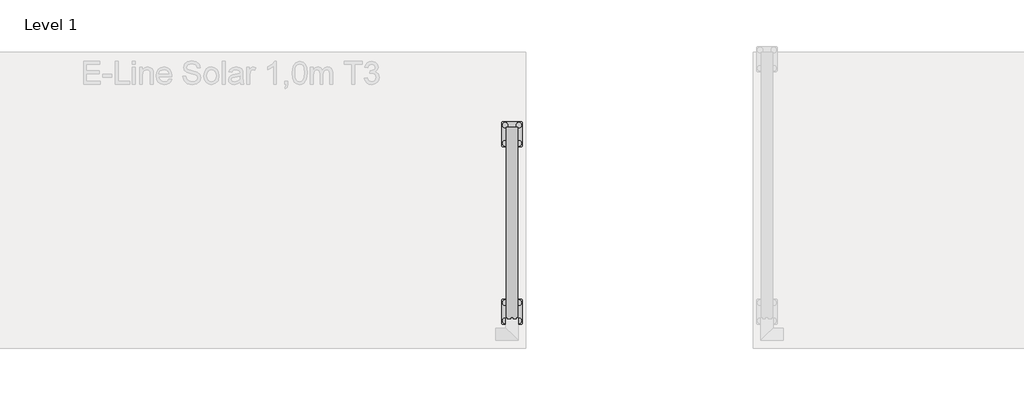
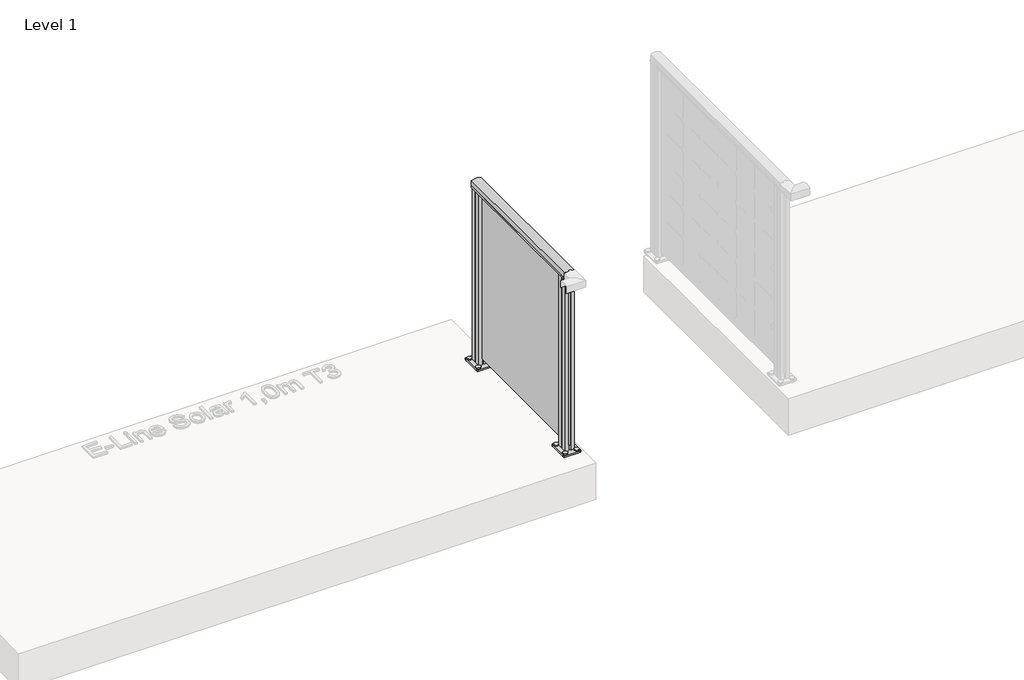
# One storey, part 23 of 66: 1 railing.
"""IFC4 building model written with IfcOpenShell, lengths in millimetres."""

from ifc_helpers import new_model, si_unit, point, frame, frame_2d, origin, origin_with_axes, place, context, project, spatial, polyline, circle_curve, trimmed, segment, composite_curve, outline, extrude, element, save

model = new_model("IFC4")

# Units and contexts
model_context = context("Model", 3, world=origin())
ifc_project = project(units=[si_unit("LENGTHUNIT", "METRE", prefix="MILLI")], contexts=[model_context])

# Site, building, storey
site = spatial("IfcSite", under=ifc_project)
building = spatial("IfcBuilding", under=site)
storey = spatial("IfcBuildingStorey", under=building, Name="Level 1", Elevation=0.0)

# Railing
placement = place(None, origin())
element("IfcRailing", 1, ObjectType="E-Line Solar 1,0m T3 4 columns of solar elements", at=placement, inside=storey, context=model_context, shape_type="SweptSolid", body=[
    extrude(outline(composite_curve([segment(trimmed(circle_curve(frame_2d((942.6785502, 18235.8109342)), 57.3235687), [point((994.1390059, 18261.0658945))], [point((994.1342258, 18210.5462362))], False, "CARTESIAN"), True, "CONTINUOUS"), segment(polyline([(994.1342258, 18210.5462362), (967.0235023, 18210.5462362), (966.4415706, 18211.128168), (965.8194895, 18210.5060869), (957.2498847, 18210.5060869), (957.2498847, 18212.3110398), (980.4998829, 18212.3110398), (980.4998829, 18259.306086), (957.2498847, 18259.306086), (957.2498847, 18261.0658945), (965.9694895, 18261.0658945), (966.5842725, 18260.4511115), (967.1990555, 18261.0658945), (994.1390059, 18261.0658945)]), True, "CONTINUOUS")], self_intersect=False)), frame((0.0, -2851.1184021, 0.0), z_axis=(0.0, 1.0, 0.0), x_axis=(0.0, 0.0, 1.0)), (0.0, 0.0, 1.0), 840.0),
    extrude(outline(polyline([(18232.1463105, -2011.1184021), (18240.9063105, -2011.1184021), (18240.9063105, -2851.1184021), (18232.1463105, -2851.1184021), (18232.1463105, -2011.1184021)])), frame((0.0, 0.0, 40.0), z_axis=(0.0, 0.0, 1.0), x_axis=(1.0, 0.0, 0.0)), (0.0, 0.0, 1.0), 940.0),
    extrude(outline(polyline([(0.0, 0.0), (-16.036927, 16.036927), (-16.036927, 139.963073), (0.0, 156.0), (123.9261459, 156.0), (139.963073, 139.963073), (139.963073, 16.036927), (123.9261459, 0.0), (0.0, 0.0)])), frame((18240.0263105, -2267.6184021, 888.4156895), z_axis=(1.0, -5.7872079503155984e-12, 0.0), x_axis=(0.0, 0.0, -1.0)), (0.0, 0.0, 1.0), 1.0),
    extrude(outline(polyline([(0.0, 0.0), (-16.036927, 16.036927), (-16.036927, 139.963073), (0.0, 156.0), (123.9261459, 156.0), (139.963073, 139.963073), (139.963073, 16.036927), (123.9261459, 0.0), (0.0, 0.0)])), frame((18240.0263105, -2267.6184021, 727.4156895), z_axis=(1.0, -5.7872079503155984e-12, 0.0), x_axis=(0.0, 0.0, -1.0)), (0.0, 0.0, 1.0), 1.0),
    extrude(outline(polyline([(0.0, 0.0), (-16.036927, 16.036927), (-16.036927, 139.963073), (0.0, 156.0), (123.9261459, 156.0), (139.963073, 139.963073), (139.963073, 16.036927), (123.9261459, 0.0), (0.0, 0.0)])), frame((18240.0263105, -2267.6184021, 566.4156895), z_axis=(1.0, -5.7872079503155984e-12, 0.0), x_axis=(0.0, 0.0, -1.0)), (0.0, 0.0, 1.0), 1.0),
    extrude(outline(polyline([(0.0, 0.0), (-16.036927, 16.036927), (-16.036927, 139.963073), (0.0, 156.0), (123.9261459, 156.0), (139.963073, 139.963073), (139.963073, 16.036927), (123.9261459, 0.0), (0.0, 0.0)])), frame((18240.0263105, -2267.6184021, 405.4156895), z_axis=(1.0, -5.7872079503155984e-12, 0.0), x_axis=(0.0, 0.0, -1.0)), (0.0, 0.0, 1.0), 1.0),
    extrude(outline(polyline([(0.0, 0.0), (-16.036927, 16.036927), (-16.036927, 139.963073), (0.0, 156.0), (123.9261459, 156.0), (139.963073, 139.963073), (139.963073, 16.036927), (123.9261459, 0.0), (0.0, 0.0)])), frame((18240.0263105, -2267.6184021, 244.4156895), z_axis=(1.0, -5.7872079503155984e-12, 0.0), x_axis=(0.0, 0.0, -1.0)), (0.0, 0.0, 1.0), 1.0),
    extrude(outline(polyline([(0.0, 0.0), (-16.036927, 16.036927), (-16.036927, 139.963073), (0.0, 156.0), (123.9261459, 156.0), (139.963073, 139.963073), (139.963073, 16.036927), (123.9261459, 0.0), (0.0, 0.0)])), frame((18240.0263105, -2428.6184021, 888.4156895), z_axis=(1.0, -5.7872079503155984e-12, 0.0), x_axis=(0.0, 0.0, -1.0)), (0.0, 0.0, 1.0), 1.0),
    extrude(outline(polyline([(0.0, 0.0), (-16.036927, 16.036927), (-16.036927, 139.963073), (0.0, 156.0), (123.9261459, 156.0), (139.963073, 139.963073), (139.963073, 16.036927), (123.9261459, 0.0), (0.0, 0.0)])), frame((18240.0263105, -2428.6184021, 727.4156895), z_axis=(1.0, -5.7872079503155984e-12, 0.0), x_axis=(0.0, 0.0, -1.0)), (0.0, 0.0, 1.0), 1.0),
    extrude(outline(polyline([(0.0, 0.0), (-16.036927, 16.036927), (-16.036927, 139.963073), (0.0, 156.0), (123.9261459, 156.0), (139.963073, 139.963073), (139.963073, 16.036927), (123.9261459, 0.0), (0.0, 0.0)])), frame((18240.0263105, -2428.6184021, 566.4156895), z_axis=(1.0, -5.7872079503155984e-12, 0.0), x_axis=(0.0, 0.0, -1.0)), (0.0, 0.0, 1.0), 1.0),
    extrude(outline(polyline([(0.0, 0.0), (-16.036927, 16.036927), (-16.036927, 139.963073), (0.0, 156.0), (123.9261459, 156.0), (139.963073, 139.963073), (139.963073, 16.036927), (123.9261459, 0.0), (0.0, 0.0)])), frame((18240.0263105, -2428.6184021, 405.4156895), z_axis=(1.0, -5.7872079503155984e-12, 0.0), x_axis=(0.0, 0.0, -1.0)), (0.0, 0.0, 1.0), 1.0),
    extrude(outline(polyline([(0.0, 0.0), (-16.036927, 16.036927), (-16.036927, 139.963073), (0.0, 156.0), (123.9261459, 156.0), (139.963073, 139.963073), (139.963073, 16.036927), (123.9261459, 0.0), (0.0, 0.0)])), frame((18240.0263105, -2428.6184021, 244.4156895), z_axis=(1.0, -5.7872079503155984e-12, 0.0), x_axis=(0.0, 0.0, -1.0)), (0.0, 0.0, 1.0), 1.0),
    extrude(outline(polyline([(0.0, 0.0), (-16.036927, 16.036927), (-16.036927, 139.963073), (0.0, 156.0), (123.9261459, 156.0), (139.963073, 139.963073), (139.963073, 16.036927), (123.9261459, 0.0), (0.0, 0.0)])), frame((18240.0263105, -2750.6184021, 888.4156895), z_axis=(1.0, -5.7872079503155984e-12, 0.0), x_axis=(0.0, 0.0, -1.0)), (0.0, 0.0, 1.0), 1.0),
    extrude(outline(polyline([(0.0, 0.0), (-16.036927, 16.036927), (-16.036927, 139.963073), (0.0, 156.0), (123.9261459, 156.0), (139.963073, 139.963073), (139.963073, 16.036927), (123.9261459, 0.0), (0.0, 0.0)])), frame((18240.0263105, -2750.6184021, 727.4156895), z_axis=(1.0, -5.7872079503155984e-12, 0.0), x_axis=(0.0, 0.0, -1.0)), (0.0, 0.0, 1.0), 1.0),
    extrude(outline(polyline([(0.0, 0.0), (-16.036927, 16.036927), (-16.036927, 139.963073), (0.0, 156.0), (123.9261459, 156.0), (139.963073, 139.963073), (139.963073, 16.036927), (123.9261459, 0.0), (0.0, 0.0)])), frame((18240.0263105, -2750.6184021, 566.4156895), z_axis=(1.0, -5.7872079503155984e-12, 0.0), x_axis=(0.0, 0.0, -1.0)), (0.0, 0.0, 1.0), 1.0),
    extrude(outline(polyline([(0.0, 0.0), (-16.036927, 16.036927), (-16.036927, 139.963073), (0.0, 156.0), (123.9261459, 156.0), (139.963073, 139.963073), (139.963073, 16.036927), (123.9261459, 0.0), (0.0, 0.0)])), frame((18240.0263105, -2750.6184021, 405.4156895), z_axis=(1.0, -5.7872079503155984e-12, 0.0), x_axis=(0.0, 0.0, -1.0)), (0.0, 0.0, 1.0), 1.0),
    extrude(outline(polyline([(0.0, 0.0), (-16.036927, 16.036927), (-16.036927, 139.963073), (0.0, 156.0), (123.9261459, 156.0), (139.963073, 139.963073), (139.963073, 16.036927), (123.9261459, 0.0), (0.0, 0.0)])), frame((18240.0263105, -2750.6184021, 244.4156895), z_axis=(1.0, -5.7872079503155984e-12, 0.0), x_axis=(0.0, 0.0, -1.0)), (0.0, 0.0, 1.0), 1.0),
    extrude(outline(polyline([(0.0, 0.0), (-16.036927, 16.036927), (-16.036927, 139.963073), (0.0, 156.0), (123.9261459, 156.0), (139.963073, 139.963073), (139.963073, 16.036927), (123.9261459, 0.0), (0.0, 0.0)])), frame((18240.0263105, -2589.6184021, 888.4156895), z_axis=(1.0, -5.7872079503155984e-12, 0.0), x_axis=(0.0, 0.0, -1.0)), (0.0, 0.0, 1.0), 1.0),
    extrude(outline(polyline([(0.0, 0.0), (-16.036927, 16.036927), (-16.036927, 139.963073), (0.0, 156.0), (123.9261459, 156.0), (139.963073, 139.963073), (139.963073, 16.036927), (123.9261459, 0.0), (0.0, 0.0)])), frame((18240.0263105, -2589.6184021, 727.4156895), z_axis=(1.0, -5.7872079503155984e-12, 0.0), x_axis=(0.0, 0.0, -1.0)), (0.0, 0.0, 1.0), 1.0),
    extrude(outline(polyline([(0.0, 0.0), (-16.036927, 16.036927), (-16.036927, 139.963073), (0.0, 156.0), (123.9261459, 156.0), (139.963073, 139.963073), (139.963073, 16.036927), (123.9261459, 0.0), (0.0, 0.0)])), frame((18240.0263105, -2589.6184021, 566.4156895), z_axis=(1.0, -5.7872079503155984e-12, 0.0), x_axis=(0.0, 0.0, -1.0)), (0.0, 0.0, 1.0), 1.0),
    extrude(outline(polyline([(0.0, 0.0), (-16.036927, 16.036927), (-16.036927, 139.963073), (0.0, 156.0), (123.9261459, 156.0), (139.963073, 139.963073), (139.963073, 16.036927), (123.9261459, 0.0), (0.0, 0.0)])), frame((18240.0263105, -2589.6184021, 405.4156895), z_axis=(1.0, -5.7872079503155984e-12, 0.0), x_axis=(0.0, 0.0, -1.0)), (0.0, 0.0, 1.0), 1.0),
    extrude(outline(polyline([(0.0, 0.0), (-16.036927, 16.036927), (-16.036927, 139.963073), (0.0, 156.0), (123.9261459, 156.0), (139.963073, 139.963073), (139.963073, 16.036927), (123.9261459, 0.0), (0.0, 0.0)])), frame((18240.0263105, -2589.6184021, 244.4156895), z_axis=(1.0, -5.7872079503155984e-12, 0.0), x_axis=(0.0, 0.0, -1.0)), (0.0, 0.0, 1.0), 1.0),
    extrude(outline(composite_curve([segment(trimmed(circle_curve(frame_2d((18266.5263105, -2781.1184021)), 11.9621755), [point((18278.488486, -2781.1184021))], [point((18254.5641351, -2781.1184021))], False, "CARTESIAN"), True, "CONTINUOUS"), segment(trimmed(circle_curve(frame_2d((18266.5263105, -2781.1184021)), 11.9621755), [point((18254.5641351, -2781.1184021))], [point((18278.488486, -2781.1184021))], False, "CARTESIAN"), True, "CONTINUOUS")], self_intersect=False)), frame((0.0, 0.0, 10.0), z_axis=(0.0, 0.0, 1.0), x_axis=(1.0, 0.0, 0.0)), (0.0, 0.0, 1.0), 5.0),
    extrude(outline(composite_curve([segment(trimmed(circle_curve(frame_2d((18206.5263105, -2781.1184021)), 11.9621755), [point((18218.488486, -2781.1184021))], [point((18194.5641351, -2781.1184021))], False, "CARTESIAN"), True, "CONTINUOUS"), segment(trimmed(circle_curve(frame_2d((18206.5263105, -2781.1184021)), 11.9621755), [point((18194.5641351, -2781.1184021))], [point((18218.488486, -2781.1184021))], False, "CARTESIAN"), True, "CONTINUOUS")], self_intersect=False)), frame((0.0, 0.0, 10.0), z_axis=(0.0, 0.0, 1.0), x_axis=(1.0, 0.0, 0.0)), (0.0, 0.0, 1.0), 5.0),
    extrude(outline(composite_curve([segment(trimmed(circle_curve(frame_2d((18266.5263105, -2861.1184021)), 11.9621755), [point((18278.488486, -2861.1184021))], [point((18254.5641351, -2861.1184021))], False, "CARTESIAN"), True, "CONTINUOUS"), segment(trimmed(circle_curve(frame_2d((18266.5263105, -2861.1184021)), 11.9621755), [point((18254.5641351, -2861.1184021))], [point((18278.488486, -2861.1184021))], False, "CARTESIAN"), True, "CONTINUOUS")], self_intersect=False)), frame((0.0, 0.0, 10.0), z_axis=(0.0, 0.0, 1.0), x_axis=(1.0, 0.0, 0.0)), (0.0, 0.0, 1.0), 5.0),
    extrude(outline(composite_curve([segment(trimmed(circle_curve(frame_2d((18206.5263105, -2861.1184021)), 11.9621755), [point((18218.488486, -2861.1184021))], [point((18194.5641351, -2861.1184021))], False, "CARTESIAN"), True, "CONTINUOUS"), segment(trimmed(circle_curve(frame_2d((18206.5263105, -2861.1184021)), 11.9621755), [point((18194.5641351, -2861.1184021))], [point((18218.488486, -2861.1184021))], False, "CARTESIAN"), True, "CONTINUOUS")], self_intersect=False)), frame((0.0, 0.0, 10.0), z_axis=(0.0, 0.0, 1.0), x_axis=(1.0, 0.0, 0.0)), (0.0, 0.0, 1.0), 5.0),
    extrude(outline(composite_curve([segment(polyline([(18196.5263105, -2766.1184021), (18276.5263105, -2766.1184021)]), True, "CONTINUOUS"), segment(trimmed(circle_curve(frame_2d((18276.5263105, -2771.1184021)), 5.0), [point((18276.5263105, -2766.1184021))], [point((18281.5263105, -2771.1184021))], False, "CARTESIAN"), True, "CONTINUOUS"), segment(polyline([(18281.5263105, -2771.1184021), (18281.5263105, -2871.1184021)]), True, "CONTINUOUS"), segment(trimmed(circle_curve(frame_2d((18276.5263105, -2871.1184021)), 5.0), [point((18281.5263105, -2871.1184021))], [point((18276.5263105, -2876.1184021))], False, "CARTESIAN"), True, "CONTINUOUS"), segment(polyline([(18276.5263105, -2876.1184021), (18196.5263105, -2876.1184021)]), True, "CONTINUOUS"), segment(trimmed(circle_curve(frame_2d((18196.5263105, -2871.1184021)), 5.0), [point((18196.5263105, -2876.1184021))], [point((18191.5263105, -2871.1184021))], False, "CARTESIAN"), True, "CONTINUOUS"), segment(polyline([(18191.5263105, -2871.1184021), (18191.5263105, -2771.1184021)]), True, "CONTINUOUS"), segment(trimmed(circle_curve(frame_2d((18196.5263105, -2771.1184021)), 5.0), [point((18191.5263105, -2771.1184021))], [point((18196.5263105, -2766.1184021))], False, "CARTESIAN"), True, "CONTINUOUS")], self_intersect=False), holes=[composite_curve([segment(trimmed(circle_curve(frame_2d((18206.5263105, -2781.1184021)), 6.25), [point((18212.7763105, -2781.1184021))], [point((18200.2763105, -2781.1184021))], True, "CARTESIAN"), True, "CONTINUOUS"), segment(trimmed(circle_curve(frame_2d((18206.5263105, -2781.1184021)), 6.25), [point((18200.2763105, -2781.1184021))], [point((18212.7763105, -2781.1184021))], True, "CARTESIAN"), True, "CONTINUOUS")], self_intersect=False), composite_curve([segment(trimmed(circle_curve(frame_2d((18266.5263105, -2781.1184021)), 6.25), [point((18272.7763105, -2781.1184021))], [point((18260.2763105, -2781.1184021))], True, "CARTESIAN"), True, "CONTINUOUS"), segment(trimmed(circle_curve(frame_2d((18266.5263105, -2781.1184021)), 6.25), [point((18260.2763105, -2781.1184021))], [point((18272.7763105, -2781.1184021))], True, "CARTESIAN"), True, "CONTINUOUS")], self_intersect=False), composite_curve([segment(trimmed(circle_curve(frame_2d((18266.5263105, -2861.1184021)), 6.25), [point((18272.7763105, -2861.1184021))], [point((18260.2763105, -2861.1184021))], True, "CARTESIAN"), True, "CONTINUOUS"), segment(trimmed(circle_curve(frame_2d((18266.5263105, -2861.1184021)), 6.25), [point((18260.2763105, -2861.1184021))], [point((18272.7763105, -2861.1184021))], True, "CARTESIAN"), True, "CONTINUOUS")], self_intersect=False), composite_curve([segment(trimmed(circle_curve(frame_2d((18206.5263105, -2861.1184021)), 6.25), [point((18212.7763105, -2861.1184021))], [point((18200.2763105, -2861.1184021))], True, "CARTESIAN"), True, "CONTINUOUS"), segment(trimmed(circle_curve(frame_2d((18206.5263105, -2861.1184021)), 6.25), [point((18200.2763105, -2861.1184021))], [point((18212.7763105, -2861.1184021))], True, "CARTESIAN"), True, "CONTINUOUS")], self_intersect=False)]), origin_with_axes(), (0.0, 0.0, 1.0), 10.0),
    extrude(outline(polyline([(18240.8721725, -2851.116809), (18240.8747497, -2833.6168092), (18232.1147498, -2833.6155191), (18232.1121726, -2851.1155189), (18214.0573652, -2851.11286), (18214.0616532, -2821.995873), (18214.9400753, -2821.1177096), (18214.021743, -2820.0798417), (18214.0260089, -2791.1128548), (18232.1210087, -2791.1155196), (18232.1184315, -2808.6155194), (18240.8784314, -2808.6168095), (18240.8810086, -2791.1168097), (18258.9859597, -2791.119476), (18258.9816865, -2820.1359515), (18257.9932969, -2821.12405), (18259.0214382, -2822.1524942), (18259.0171723, -2851.1194812), (18240.8721725, -2851.116809)]), holes=[polyline([(18216.0202949, -2812.3191871), (18216.0202949, -2829.9131488), (18257.0228863, -2829.9131488), (18257.0228863, -2812.3191871), (18216.0202949, -2812.3191871)]), polyline([(18242.878181, -2793.1191873), (18242.878181, -2810.317104), (18257.0257139, -2810.317104), (18257.0257139, -2793.1191873), (18242.878181, -2793.1191873)]), polyline([(18216.0202949, -2793.115225), (18216.0202949, -2810.3131487), (18230.1207142, -2810.3131487), (18230.1207142, -2793.115225), (18216.0202949, -2793.115225)]), polyline([(18242.872467, -2831.9191868), (18242.872467, -2849.1171035), (18257.0199999, -2849.1171035), (18257.0199999, -2831.9191868), (18242.872467, -2831.9191868)]), polyline([(18215.9674673, -2831.9152246), (18215.9674673, -2849.1131413), (18230.1150002, -2849.1131413), (18230.1150002, -2831.9152246), (18215.9674673, -2831.9152246)])]), frame((0.0, 0.0, 10.0), z_axis=(0.0, 0.0, 1.0), x_axis=(1.0, 0.0, 0.0)), (0.0, 0.0, 1.0), 971.0),
    extrude(outline(composite_curve([segment(trimmed(circle_curve(frame_2d((18266.5263105, -2001.1184021)), 11.9621755), [point((18278.488486, -2001.1184021))], [point((18254.5641351, -2001.1184021))], False, "CARTESIAN"), True, "CONTINUOUS"), segment(trimmed(circle_curve(frame_2d((18266.5263105, -2001.1184021)), 11.9621755), [point((18254.5641351, -2001.1184021))], [point((18278.488486, -2001.1184021))], False, "CARTESIAN"), True, "CONTINUOUS")], self_intersect=False)), frame((0.0, 0.0, 10.0), z_axis=(0.0, 0.0, 1.0), x_axis=(1.0, 0.0, 0.0)), (0.0, 0.0, 1.0), 5.0),
    extrude(outline(composite_curve([segment(trimmed(circle_curve(frame_2d((18206.5263105, -2001.1184021)), 11.9621755), [point((18218.488486, -2001.1184021))], [point((18194.5641351, -2001.1184021))], False, "CARTESIAN"), True, "CONTINUOUS"), segment(trimmed(circle_curve(frame_2d((18206.5263105, -2001.1184021)), 11.9621755), [point((18194.5641351, -2001.1184021))], [point((18218.488486, -2001.1184021))], False, "CARTESIAN"), True, "CONTINUOUS")], self_intersect=False)), frame((0.0, 0.0, 10.0), z_axis=(0.0, 0.0, 1.0), x_axis=(1.0, 0.0, 0.0)), (0.0, 0.0, 1.0), 5.0),
    extrude(outline(composite_curve([segment(trimmed(circle_curve(frame_2d((18266.5263105, -2081.1184021)), 11.9621755), [point((18278.488486, -2081.1184021))], [point((18254.5641351, -2081.1184021))], False, "CARTESIAN"), True, "CONTINUOUS"), segment(trimmed(circle_curve(frame_2d((18266.5263105, -2081.1184021)), 11.9621755), [point((18254.5641351, -2081.1184021))], [point((18278.488486, -2081.1184021))], False, "CARTESIAN"), True, "CONTINUOUS")], self_intersect=False)), frame((0.0, 0.0, 10.0), z_axis=(0.0, 0.0, 1.0), x_axis=(1.0, 0.0, 0.0)), (0.0, 0.0, 1.0), 5.0),
    extrude(outline(composite_curve([segment(trimmed(circle_curve(frame_2d((18206.5263105, -2081.1184021)), 11.9621755), [point((18218.488486, -2081.1184021))], [point((18194.5641351, -2081.1184021))], False, "CARTESIAN"), True, "CONTINUOUS"), segment(trimmed(circle_curve(frame_2d((18206.5263105, -2081.1184021)), 11.9621755), [point((18194.5641351, -2081.1184021))], [point((18218.488486, -2081.1184021))], False, "CARTESIAN"), True, "CONTINUOUS")], self_intersect=False)), frame((0.0, 0.0, 10.0), z_axis=(0.0, 0.0, 1.0), x_axis=(1.0, 0.0, 0.0)), (0.0, 0.0, 1.0), 5.0),
    extrude(outline(composite_curve([segment(polyline([(18196.5263105, -1986.1184021), (18276.5263105, -1986.1184021)]), True, "CONTINUOUS"), segment(trimmed(circle_curve(frame_2d((18276.5263105, -1991.1184021)), 5.0), [point((18276.5263105, -1986.1184021))], [point((18281.5263105, -1991.1184021))], False, "CARTESIAN"), True, "CONTINUOUS"), segment(polyline([(18281.5263105, -1991.1184021), (18281.5263105, -2091.1184021)]), True, "CONTINUOUS"), segment(trimmed(circle_curve(frame_2d((18276.5263105, -2091.1184021)), 5.0), [point((18281.5263105, -2091.1184021))], [point((18276.5263105, -2096.1184021))], False, "CARTESIAN"), True, "CONTINUOUS"), segment(polyline([(18276.5263105, -2096.1184021), (18196.5263105, -2096.1184021)]), True, "CONTINUOUS"), segment(trimmed(circle_curve(frame_2d((18196.5263105, -2091.1184021)), 5.0), [point((18196.5263105, -2096.1184021))], [point((18191.5263105, -2091.1184021))], False, "CARTESIAN"), True, "CONTINUOUS"), segment(polyline([(18191.5263105, -2091.1184021), (18191.5263105, -1991.1184021)]), True, "CONTINUOUS"), segment(trimmed(circle_curve(frame_2d((18196.5263105, -1991.1184021)), 5.0), [point((18191.5263105, -1991.1184021))], [point((18196.5263105, -1986.1184021))], False, "CARTESIAN"), True, "CONTINUOUS")], self_intersect=False), holes=[composite_curve([segment(trimmed(circle_curve(frame_2d((18206.5263105, -2001.1184021)), 6.25), [point((18212.7763105, -2001.1184021))], [point((18200.2763105, -2001.1184021))], True, "CARTESIAN"), True, "CONTINUOUS"), segment(trimmed(circle_curve(frame_2d((18206.5263105, -2001.1184021)), 6.25), [point((18200.2763105, -2001.1184021))], [point((18212.7763105, -2001.1184021))], True, "CARTESIAN"), True, "CONTINUOUS")], self_intersect=False), composite_curve([segment(trimmed(circle_curve(frame_2d((18266.5263105, -2001.1184021)), 6.25), [point((18272.7763105, -2001.1184021))], [point((18260.2763105, -2001.1184021))], True, "CARTESIAN"), True, "CONTINUOUS"), segment(trimmed(circle_curve(frame_2d((18266.5263105, -2001.1184021)), 6.25), [point((18260.2763105, -2001.1184021))], [point((18272.7763105, -2001.1184021))], True, "CARTESIAN"), True, "CONTINUOUS")], self_intersect=False), composite_curve([segment(trimmed(circle_curve(frame_2d((18266.5263105, -2081.1184021)), 6.25), [point((18272.7763105, -2081.1184021))], [point((18260.2763105, -2081.1184021))], True, "CARTESIAN"), True, "CONTINUOUS"), segment(trimmed(circle_curve(frame_2d((18266.5263105, -2081.1184021)), 6.25), [point((18260.2763105, -2081.1184021))], [point((18272.7763105, -2081.1184021))], True, "CARTESIAN"), True, "CONTINUOUS")], self_intersect=False), composite_curve([segment(trimmed(circle_curve(frame_2d((18206.5263105, -2081.1184021)), 6.25), [point((18212.7763105, -2081.1184021))], [point((18200.2763105, -2081.1184021))], True, "CARTESIAN"), True, "CONTINUOUS"), segment(trimmed(circle_curve(frame_2d((18206.5263105, -2081.1184021)), 6.25), [point((18200.2763105, -2081.1184021))], [point((18212.7763105, -2081.1184021))], True, "CARTESIAN"), True, "CONTINUOUS")], self_intersect=False)]), origin_with_axes(), (0.0, 0.0, 1.0), 10.0),
    extrude(outline(polyline([(18240.8721725, -2071.116809), (18240.8747497, -2053.6168092), (18232.1147498, -2053.6155191), (18232.1121726, -2071.1155189), (18214.0573652, -2071.11286), (18214.0616532, -2041.995873), (18214.9400753, -2041.1177096), (18214.021743, -2040.0798417), (18214.0260089, -2011.1128548), (18232.1210087, -2011.1155196), (18232.1184315, -2028.6155194), (18240.8784314, -2028.6168095), (18240.8810086, -2011.1168097), (18258.9859597, -2011.119476), (18258.9816865, -2040.1359515), (18257.9932969, -2041.12405), (18259.0214382, -2042.1524942), (18259.0171723, -2071.1194812), (18240.8721725, -2071.116809)]), holes=[polyline([(18216.0202949, -2032.3191871), (18216.0202949, -2049.9131488), (18257.0228863, -2049.9131488), (18257.0228863, -2032.3191871), (18216.0202949, -2032.3191871)]), polyline([(18242.878181, -2013.1191873), (18242.878181, -2030.317104), (18257.0257139, -2030.317104), (18257.0257139, -2013.1191873), (18242.878181, -2013.1191873)]), polyline([(18216.0202949, -2013.115225), (18216.0202949, -2030.3131487), (18230.1207142, -2030.3131487), (18230.1207142, -2013.115225), (18216.0202949, -2013.115225)]), polyline([(18242.872467, -2051.9191868), (18242.872467, -2069.1171035), (18257.0199999, -2069.1171035), (18257.0199999, -2051.9191868), (18242.872467, -2051.9191868)]), polyline([(18215.9674673, -2051.9152246), (18215.9674673, -2069.1131413), (18230.1150002, -2069.1131413), (18230.1150002, -2051.9152246), (18215.9674673, -2051.9152246)])]), frame((0.0, 0.0, 10.0), z_axis=(0.0, 0.0, 1.0), x_axis=(1.0, 0.0, 0.0)), (0.0, 0.0, 1.0), 971.0),
])

save(model, "model.ifc")
